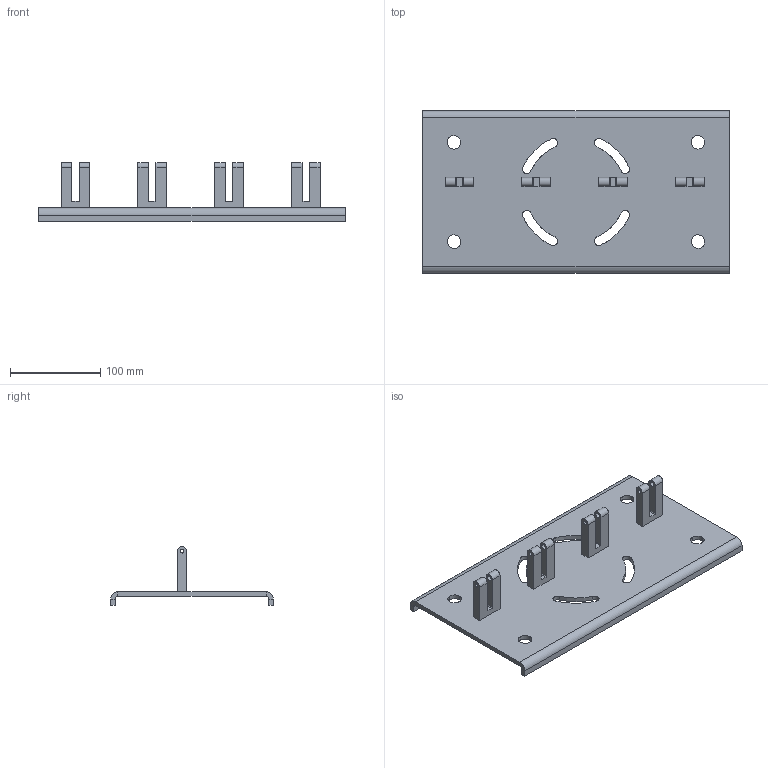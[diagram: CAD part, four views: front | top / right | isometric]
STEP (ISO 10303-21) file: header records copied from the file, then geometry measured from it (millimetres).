
FILE_DESCRIPTION(('CATIA V5 STEP Exchange'),'2;1');
FILE_NAME('C:\Users\Administrator\Desktop\GZ31.10_V1.stp','2021-06-05T03:43:20+00:00',('none'),('none'),'CATIA Version 5 Release 20 GA (IN-10)','CATIA V5 STEP AP214','none');
FILE_SCHEMA(('AUTOMOTIVE_DESIGN { 1 0 10303 214 1 1 1 1 }'));
Length unit declared in the file: millimetre
Products named in the file (4): product1; 1; 100; 2
Assembly tree (6 placements, depth 3):
  product1
    1
    100  x4
      2
Bounding box: 340 x 180 x 65 mm (x, y, z)
Volume: 365113 mm3; surface area: 156659.1 mm2
Topology: 5 solids, 5 shells, 130 faces, 332 edges, 216 vertices
Faces by surface type: cylinder 76, plane 54
Entity records: 2455 total; most frequent: CARTESIAN_POINT 612, ORIENTED_EDGE 376, DIRECTION 316, EDGE_CURVE 188, AXIS2_PLACEMENT_3D 140, VERTEX_POINT 120, VECTOR 96, LINE 96
